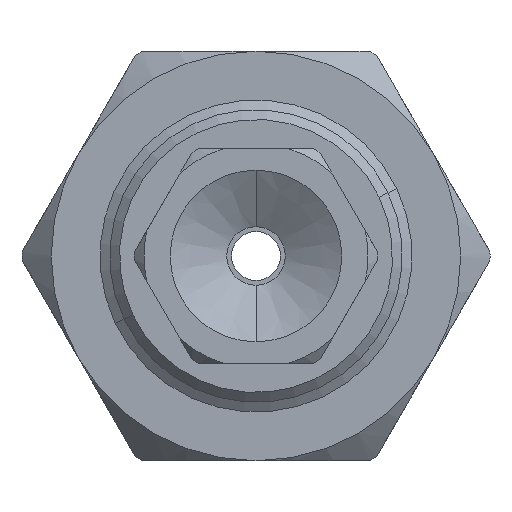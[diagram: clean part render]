
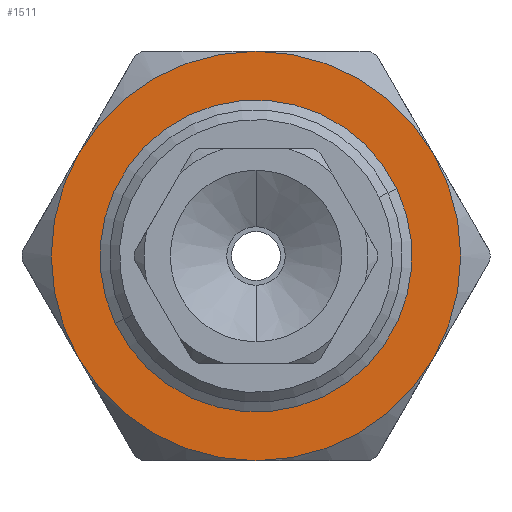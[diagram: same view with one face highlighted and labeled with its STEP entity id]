
A CAD part, front view. The second image highlights one B-rep face of the part: STEP entity #1511.
In plain terms, the highlighted planar face has unit normal (0, -1, 0).
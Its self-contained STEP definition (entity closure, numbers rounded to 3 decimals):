
#53 = CIRCLE ( 'NONE', #6303, 10.5 ) ;
#245 = EDGE_CURVE ( 'NONE', #5924, #1425, #4223, .T. ) ;
#445 = CARTESIAN_POINT ( 'NONE',  ( 0., 0., -7.25 ) ) ;
#905 = CIRCLE ( 'NONE', #7313, 10.5 ) ;
#922 = DIRECTION ( 'NONE',  ( 0., -1., 0. ) ) ;
#975 = ORIENTED_EDGE ( 'NONE', *, *, #7696, .T. ) ;
#1037 = AXIS2_PLACEMENT_3D ( 'NONE', #4645, #7238, #6509 ) ;
#1425 = VERTEX_POINT ( 'NONE', #445 ) ;
#1511 = ADVANCED_FACE ( 'NONE', ( #3087, #8069 ), #7339, .F. ) ;
#1856 = CARTESIAN_POINT ( 'NONE',  ( 9.093, 0., -5.25 ) ) ;
#1981 = CIRCLE ( 'NONE', #6252, 10.5 ) ;
#2065 = ORIENTED_EDGE ( 'NONE', *, *, #5964, .T. ) ;
#2313 = CARTESIAN_POINT ( 'NONE',  ( 0., 0., 10.5 ) ) ;
#2382 = AXIS2_PLACEMENT_3D ( 'NONE', #3569, #7663, #10976 ) ;
#2470 = CIRCLE ( 'NONE', #3365, 10.5 ) ;
#2582 = ORIENTED_EDGE ( 'NONE', *, *, #5095, .T. ) ;
#2803 = VERTEX_POINT ( 'NONE', #7286 ) ;
#2846 = DIRECTION ( 'NONE',  ( 0., 0., 1. ) ) ;
#2925 = DIRECTION ( 'NONE',  ( 0., 0., 1. ) ) ;
#2970 = VERTEX_POINT ( 'NONE', #9422 ) ;
#3087 = FACE_BOUND ( 'NONE', #4212, .T. ) ;
#3097 = CARTESIAN_POINT ( 'NONE',  ( 0., 0., 0. ) ) ;
#3332 = CARTESIAN_POINT ( 'NONE',  ( 0., 0., 0. ) ) ;
#3365 = AXIS2_PLACEMENT_3D ( 'NONE', #3332, #922, #10126 ) ;
#3389 = CIRCLE ( 'NONE', #6417, 10.5 ) ;
#3465 = VERTEX_POINT ( 'NONE', #1856 ) ;
#3569 = CARTESIAN_POINT ( 'NONE',  ( 0., 0., 0. ) ) ;
#3592 = DIRECTION ( 'NONE',  ( 0., -1., 0. ) ) ;
#3672 = CARTESIAN_POINT ( 'NONE',  ( 0., 0., 0. ) ) ;
#3847 = EDGE_CURVE ( 'NONE', #4428, #3870, #53, .T. ) ;
#3870 = VERTEX_POINT ( 'NONE', #2313 ) ;
#3977 = ORIENTED_EDGE ( 'NONE', *, *, #245, .T. ) ;
#4212 = EDGE_LOOP ( 'NONE', ( #3977, #975 ) ) ;
#4223 = CIRCLE ( 'NONE', #10211, 7.25 ) ;
#4333 = CIRCLE ( 'NONE', #2382, 10.5 ) ;
#4418 = CARTESIAN_POINT ( 'NONE',  ( 0., 0., 0. ) ) ;
#4428 = VERTEX_POINT ( 'NONE', #5277 ) ;
#4518 = CARTESIAN_POINT ( 'NONE',  ( 0., 0., 0. ) ) ;
#4645 = CARTESIAN_POINT ( 'NONE',  ( 0., 0., 0. ) ) ;
#4891 = DIRECTION ( 'NONE',  ( 0., -1., 0. ) ) ;
#5095 = EDGE_CURVE ( 'NONE', #2803, #9559, #3389, .T. ) ;
#5140 = DIRECTION ( 'NONE',  ( 0., 0., 1. ) ) ;
#5277 = CARTESIAN_POINT ( 'NONE',  ( 9.093, 0., 5.25 ) ) ;
#5661 = CARTESIAN_POINT ( 'NONE',  ( 0., 0., 0. ) ) ;
#5924 = VERTEX_POINT ( 'NONE', #9268 ) ;
#5964 = EDGE_CURVE ( 'NONE', #3465, #4428, #4333, .T. ) ;
#6218 = ORIENTED_EDGE ( 'NONE', *, *, #6734, .T. ) ;
#6250 = EDGE_LOOP ( 'NONE', ( #8427, #2065, #9176, #6218, #7891, #2582 ) ) ;
#6252 = AXIS2_PLACEMENT_3D ( 'NONE', #4418, #3592, #5140 ) ;
#6303 = AXIS2_PLACEMENT_3D ( 'NONE', #10939, #9440, #10775 ) ;
#6417 = AXIS2_PLACEMENT_3D ( 'NONE', #5661, #4891, #7227 ) ;
#6509 = DIRECTION ( 'NONE',  ( 0., 0., 1. ) ) ;
#6734 = EDGE_CURVE ( 'NONE', #3870, #2970, #1981, .T. ) ;
#6817 = EDGE_CURVE ( 'NONE', #2970, #2803, #905, .T. ) ;
#7061 = DIRECTION ( 'NONE',  ( 0., 1., 0. ) ) ;
#7227 = DIRECTION ( 'NONE',  ( 0., 0., 1. ) ) ;
#7238 = DIRECTION ( 'NONE',  ( 0., 1., 0. ) ) ;
#7286 = CARTESIAN_POINT ( 'NONE',  ( -9.093, 0., -5.25 ) ) ;
#7313 = AXIS2_PLACEMENT_3D ( 'NONE', #3097, #10502, #2925 ) ;
#7339 = PLANE ( 'NONE',  #1037 ) ;
#7656 = CIRCLE ( 'NONE', #8197, 7.25 ) ;
#7663 = DIRECTION ( 'NONE',  ( 0., -1., 0. ) ) ;
#7696 = EDGE_CURVE ( 'NONE', #1425, #5924, #7656, .T. ) ;
#7881 = DIRECTION ( 'NONE',  ( 0., 1., 0. ) ) ;
#7891 = ORIENTED_EDGE ( 'NONE', *, *, #6817, .T. ) ;
#8069 = FACE_OUTER_BOUND ( 'NONE', #6250, .T. ) ;
#8197 = AXIS2_PLACEMENT_3D ( 'NONE', #3672, #7061, #2846 ) ;
#8427 = ORIENTED_EDGE ( 'NONE', *, *, #10622, .T. ) ;
#8716 = DIRECTION ( 'NONE',  ( 0., 0., 1. ) ) ;
#9176 = ORIENTED_EDGE ( 'NONE', *, *, #3847, .T. ) ;
#9268 = CARTESIAN_POINT ( 'NONE',  ( 0., 0., 7.25 ) ) ;
#9422 = CARTESIAN_POINT ( 'NONE',  ( -9.093, 0., 5.25 ) ) ;
#9440 = DIRECTION ( 'NONE',  ( 0., -1., 0. ) ) ;
#9559 = VERTEX_POINT ( 'NONE', #9959 ) ;
#9959 = CARTESIAN_POINT ( 'NONE',  ( 0., 0., -10.5 ) ) ;
#10126 = DIRECTION ( 'NONE',  ( 0., 0., 1. ) ) ;
#10211 = AXIS2_PLACEMENT_3D ( 'NONE', #4518, #7881, #8716 ) ;
#10502 = DIRECTION ( 'NONE',  ( 0., -1., 0. ) ) ;
#10622 = EDGE_CURVE ( 'NONE', #9559, #3465, #2470, .T. ) ;
#10775 = DIRECTION ( 'NONE',  ( 0., 0., 1. ) ) ;
#10939 = CARTESIAN_POINT ( 'NONE',  ( 0., 0., 0. ) ) ;
#10976 = DIRECTION ( 'NONE',  ( 0., 0., 1. ) ) ;
